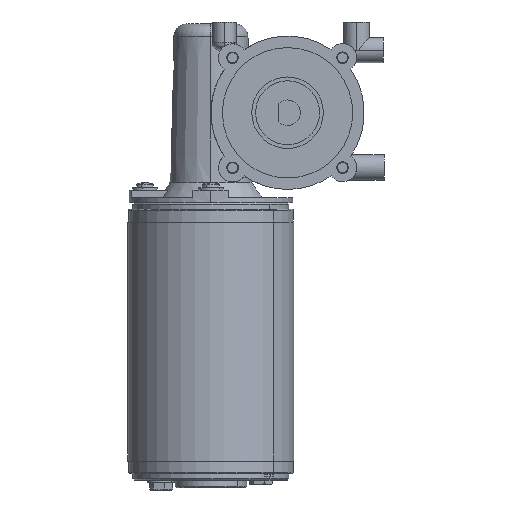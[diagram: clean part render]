
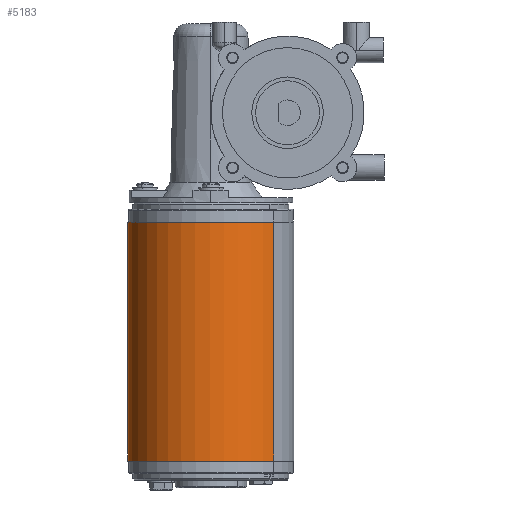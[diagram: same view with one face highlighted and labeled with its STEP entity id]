
A CAD part, left-side view. The second image highlights one B-rep face of the part: STEP entity #5183.
In plain terms, the highlighted cylindrical face has radius 32.5 mm (diameter 65 mm), a partial arc.
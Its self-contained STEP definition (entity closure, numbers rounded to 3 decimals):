
#75 = FACE_OUTER_BOUND ( 'NONE', #2315, .T. ) ;
#455 = DIRECTION ( 'NONE',  ( -1., 0., 0. ) ) ;
#1031 = CIRCLE ( 'NONE', #1581, 32.5 ) ;
#1391 = LINE ( 'NONE', #2514, #10957 ) ;
#1581 = AXIS2_PLACEMENT_3D ( 'NONE', #11594, #6089, #455 ) ;
#2133 = CIRCLE ( 'NONE', #4865, 32.5 ) ;
#2283 = CARTESIAN_POINT ( 'NONE',  ( 0., 0., -93.5 ) ) ;
#2285 = CARTESIAN_POINT ( 'NONE',  ( -32.5, 0., -93.5 ) ) ;
#2315 = EDGE_LOOP ( 'NONE', ( #5693, #10843, #4116, #6547 ) ) ;
#2514 = CARTESIAN_POINT ( 'NONE',  ( -32.5, 0., -93.5 ) ) ;
#2752 = CARTESIAN_POINT ( 'NONE',  ( 32.5, 0., 0. ) ) ;
#2771 = VERTEX_POINT ( 'NONE', #2752 ) ;
#2942 = CARTESIAN_POINT ( 'NONE',  ( 32.5, 0., -93.5 ) ) ;
#2949 = CARTESIAN_POINT ( 'NONE',  ( 0., 0., -93.5 ) ) ;
#2986 = DIRECTION ( 'NONE',  ( 1., 0., 0. ) ) ;
#3233 = DIRECTION ( 'NONE',  ( -1., 0., 0. ) ) ;
#3655 = LINE ( 'NONE', #2942, #8245 ) ;
#3881 = DIRECTION ( 'NONE',  ( 0., 0., 1. ) ) ;
#3960 = CYLINDRICAL_SURFACE ( 'NONE', #7039, 32.5 ) ;
#4116 = ORIENTED_EDGE ( 'NONE', *, *, #7937, .T. ) ;
#4865 = AXIS2_PLACEMENT_3D ( 'NONE', #2283, #8735, #3233 ) ;
#4925 = VERTEX_POINT ( 'NONE', #7915 ) ;
#4926 = CARTESIAN_POINT ( 'NONE',  ( 32.5, 0., -93.5 ) ) ;
#5183 = ADVANCED_FACE ( 'NONE', ( #75 ), #3960, .T. ) ;
#5642 = EDGE_CURVE ( 'NONE', #6236, #2771, #3655, .T. ) ;
#5693 = ORIENTED_EDGE ( 'NONE', *, *, #10903, .F. ) ;
#5937 = EDGE_CURVE ( 'NONE', #7450, #4925, #1391, .T. ) ;
#6089 = DIRECTION ( 'NONE',  ( 0., 0., -1. ) ) ;
#6236 = VERTEX_POINT ( 'NONE', #4926 ) ;
#6547 = ORIENTED_EDGE ( 'NONE', *, *, #5642, .F. ) ;
#6623 = DIRECTION ( 'NONE',  ( 0., 0., 1. ) ) ;
#7039 = AXIS2_PLACEMENT_3D ( 'NONE', #2949, #6623, #2986 ) ;
#7450 = VERTEX_POINT ( 'NONE', #2285 ) ;
#7915 = CARTESIAN_POINT ( 'NONE',  ( -32.5, 0., 0. ) ) ;
#7937 = EDGE_CURVE ( 'NONE', #4925, #2771, #1031, .T. ) ;
#8245 = VECTOR ( 'NONE', #3881, 1000. ) ;
#8735 = DIRECTION ( 'NONE',  ( 0., 0., -1. ) ) ;
#10807 = DIRECTION ( 'NONE',  ( 0., 0., 1. ) ) ;
#10843 = ORIENTED_EDGE ( 'NONE', *, *, #5937, .T. ) ;
#10903 = EDGE_CURVE ( 'NONE', #7450, #6236, #2133, .T. ) ;
#10957 = VECTOR ( 'NONE', #10807, 1000. ) ;
#11594 = CARTESIAN_POINT ( 'NONE',  ( 0., 0., 0. ) ) ;
